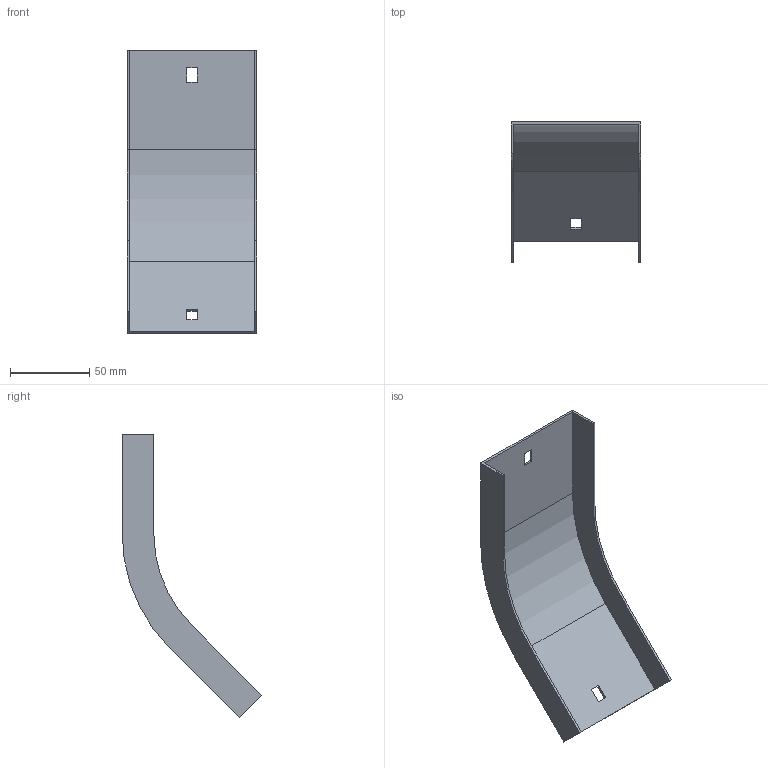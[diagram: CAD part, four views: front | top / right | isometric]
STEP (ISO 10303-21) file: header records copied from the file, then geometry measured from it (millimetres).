
FILE_DESCRIPTION (( 'STEP AP214' ), '1' );
FILE_NAME ('34G1C075.step', '2025-02-21T12:43:11', ( '' ), ( '' ), 'SwSTEP 2.0', 'SolidWorks 2023', '' );
FILE_SCHEMA (( 'AUTOMOTIVE_DESIGN' ));
Length unit declared in the file: millimetre
Products named in the file (1): 34G1C075
Bounding box: 82 x 88.23 x 178.86 mm (x, y, z)
Volume: 35907.7 mm3; surface area: 48897.1 mm2
Topology: 1 solids, 1 shells, 26 faces, 72 edges, 48 vertices
Faces by surface type: plane 22, cylinder 4
Entity records: 855 total; most frequent: CARTESIAN_POINT 147, ORIENTED_EDGE 144, DIRECTION 134, EDGE_CURVE 72, LINE 64, VECTOR 64, VERTEX_POINT 48, AXIS2_PLACEMENT_3D 35
